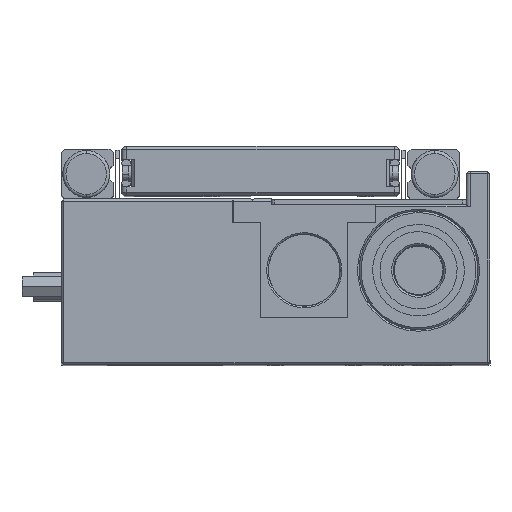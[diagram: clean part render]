
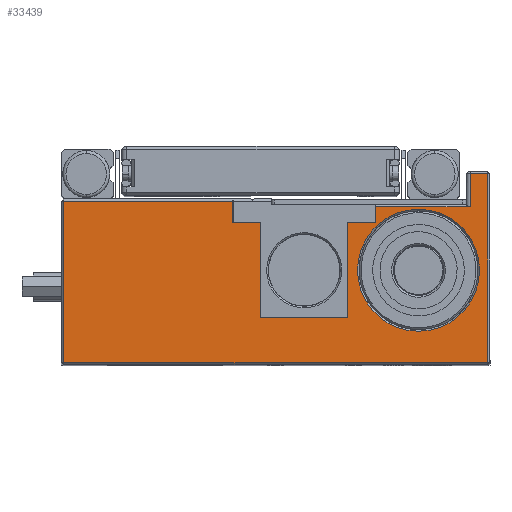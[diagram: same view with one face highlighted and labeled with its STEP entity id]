
A CAD part, top view. The second image highlights one B-rep face of the part: STEP entity #33439.
In plain terms, the highlighted planar face has unit normal (0, 0, 1).
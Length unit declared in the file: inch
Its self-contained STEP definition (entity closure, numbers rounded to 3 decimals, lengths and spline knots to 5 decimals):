
#486 = DIRECTION ( 'NONE',  ( 0., 0., -1. ) ) ;
#727 = CARTESIAN_POINT ( 'NONE',  ( 1.225, 1.22, 1.7 ) ) ;
#966 = DIRECTION ( 'NONE',  ( -1., 0., 0. ) ) ;
#998 = LINE ( 'NONE', #28695, #43756 ) ;
#1140 = VECTOR ( 'NONE', #7783, 39.37008 ) ;
#1205 = LINE ( 'NONE', #4611, #20156 ) ;
#2235 = VERTEX_POINT ( 'NONE', #37187 ) ;
#2687 = VERTEX_POINT ( 'NONE', #13105 ) ;
#2832 = CIRCLE ( 'NONE', #4267, 0.384 ) ;
#3442 = ORIENTED_EDGE ( 'NONE', *, *, #22979, .T. ) ;
#3818 = EDGE_CURVE ( 'NONE', #34899, #40530, #25342, .T. ) ;
#4213 = ORIENTED_EDGE ( 'NONE', *, *, #14075, .T. ) ;
#4267 = AXIS2_PLACEMENT_3D ( 'NONE', #17289, #486, #38602 ) ;
#4416 = VERTEX_POINT ( 'NONE', #5027 ) ;
#4603 = CARTESIAN_POINT ( 'NONE',  ( -0.095, 0.895, 1.7 ) ) ;
#4611 = CARTESIAN_POINT ( 'NONE',  ( -0.095, 0.296, 1.7 ) ) ;
#4625 = VECTOR ( 'NONE', #39157, 39.37008 ) ;
#4799 = ORIENTED_EDGE ( 'NONE', *, *, #11472, .T. ) ;
#4808 = CARTESIAN_POINT ( 'NONE',  ( -0.095, 0.296, 1.7 ) ) ;
#5027 = CARTESIAN_POINT ( 'NONE',  ( 0.455, 0.296, 1.7 ) ) ;
#5373 = PLANE ( 'NONE',  #29013 ) ;
#5589 = CARTESIAN_POINT ( 'NONE',  ( -0.095, 0.895, 1.7 ) ) ;
#5917 = ORIENTED_EDGE ( 'NONE', *, *, #32321, .T. ) ;
#6178 = EDGE_CURVE ( 'NONE', #16465, #10095, #43476, .T. ) ;
#7541 = DIRECTION ( 'NONE',  ( 0., -1., 0. ) ) ;
#7640 = DIRECTION ( 'NONE',  ( -1., 0., 0. ) ) ;
#7783 = DIRECTION ( 'NONE',  ( 0., -1., 0. ) ) ;
#9043 = LINE ( 'NONE', #36710, #14148 ) ;
#9541 = DIRECTION ( 'NONE',  ( 0., -1., 0. ) ) ;
#10095 = VERTEX_POINT ( 'NONE', #28542 ) ;
#10319 = LINE ( 'NONE', #36848, #13689 ) ;
#10705 = VECTOR ( 'NONE', #9541, 39.37008 ) ;
#11046 = CARTESIAN_POINT ( 'NONE',  ( 1.335, 1.045, 1.7 ) ) ;
#11299 = ORIENTED_EDGE ( 'NONE', *, *, #29945, .T. ) ;
#11472 = EDGE_CURVE ( 'NONE', #15242, #4416, #998, .T. ) ;
#12541 = LINE ( 'NONE', #19797, #43393 ) ;
#12550 = VERTEX_POINT ( 'NONE', #31872 ) ;
#13105 = CARTESIAN_POINT ( 'NONE',  ( 1.225, 1.205, 1.7 ) ) ;
#13388 = CARTESIAN_POINT ( 'NONE',  ( 0.63, 1.045, 1.7 ) ) ;
#13689 = VECTOR ( 'NONE', #30283, 39.37008 ) ;
#14075 = EDGE_CURVE ( 'NONE', #12550, #16532, #42269, .T. ) ;
#14082 = EDGE_CURVE ( 'NONE', #33377, #16465, #28881, .T. ) ;
#14128 = CARTESIAN_POINT ( 'NONE',  ( 1.284, 0.596, 1.7 ) ) ;
#14148 = VECTOR ( 'NONE', #19476, 39.37008 ) ;
#14850 = DIRECTION ( 'NONE',  ( 0., -1., 0. ) ) ;
#15242 = VERTEX_POINT ( 'NONE', #28992 ) ;
#15331 = CARTESIAN_POINT ( 'NONE',  ( -1.335, 0.015, 1.7 ) ) ;
#15800 = CARTESIAN_POINT ( 'NONE',  ( -0.27, 0.895, 1.7 ) ) ;
#16465 = VERTEX_POINT ( 'NONE', #18728 ) ;
#16532 = VERTEX_POINT ( 'NONE', #15331 ) ;
#16924 = DIRECTION ( 'NONE',  ( -1., 0., 0. ) ) ;
#17289 = CARTESIAN_POINT ( 'NONE',  ( 0.9, 0.596, 1.7 ) ) ;
#17361 = CARTESIAN_POINT ( 'NONE',  ( 0.63, 0.895, 1.7 ) ) ;
#18038 = ORIENTED_EDGE ( 'NONE', *, *, #26883, .T. ) ;
#18216 = CARTESIAN_POINT ( 'NONE',  ( 0.63, 0.895, 1.7 ) ) ;
#18310 = CARTESIAN_POINT ( 'NONE',  ( 0.455, 0.296, 1.7 ) ) ;
#18728 = CARTESIAN_POINT ( 'NONE',  ( -0.27, 0.895, 1.7 ) ) ;
#19150 = EDGE_CURVE ( 'NONE', #16532, #34899, #12541, .T. ) ;
#19300 = EDGE_CURVE ( 'NONE', #39107, #42481, #2832, .T. ) ;
#19476 = DIRECTION ( 'NONE',  ( -1., 0., 0. ) ) ;
#19797 = CARTESIAN_POINT ( 'NONE',  ( 1.35, 0.015, 1.7 ) ) ;
#19960 = CARTESIAN_POINT ( 'NONE',  ( 0.9, 0.596, 1.7 ) ) ;
#20156 = VECTOR ( 'NONE', #22091, 39.37008 ) ;
#20579 = VERTEX_POINT ( 'NONE', #4808 ) ;
#20735 = CARTESIAN_POINT ( 'NONE',  ( -1.35, 1.03, 1.7 ) ) ;
#21013 = DIRECTION ( 'NONE',  ( 0., 0., -1. ) ) ;
#21269 = EDGE_CURVE ( 'NONE', #40530, #2687, #9043, .T. ) ;
#21785 = VECTOR ( 'NONE', #7640, 39.37008 ) ;
#22062 = VERTEX_POINT ( 'NONE', #24060 ) ;
#22091 = DIRECTION ( 'NONE',  ( 0., 1., 0. ) ) ;
#22979 = EDGE_CURVE ( 'NONE', #22062, #32800, #40840, .T. ) ;
#23508 = DIRECTION ( 'NONE',  ( -1., 0., 0. ) ) ;
#23598 = VECTOR ( 'NONE', #966, 39.37008 ) ;
#24060 = CARTESIAN_POINT ( 'NONE',  ( 0.63, 0.995, 1.7 ) ) ;
#25342 = LINE ( 'NONE', #11046, #4625 ) ;
#26072 = ORIENTED_EDGE ( 'NONE', *, *, #14082, .T. ) ;
#26108 = VECTOR ( 'NONE', #23508, 39.37008 ) ;
#26604 = DIRECTION ( 'NONE',  ( 1., 0., 0. ) ) ;
#26850 = ORIENTED_EDGE ( 'NONE', *, *, #30780, .T. ) ;
#26883 = EDGE_CURVE ( 'NONE', #4416, #20579, #27845, .T. ) ;
#26954 = CARTESIAN_POINT ( 'NONE',  ( 1.335, 1.205, 1.7 ) ) ;
#27754 = DIRECTION ( 'NONE',  ( -1., 0., 0. ) ) ;
#27826 = ORIENTED_EDGE ( 'NONE', *, *, #19150, .T. ) ;
#27845 = LINE ( 'NONE', #18310, #21785 ) ;
#28542 = CARTESIAN_POINT ( 'NONE',  ( -0.27, 1.03, 1.7 ) ) ;
#28620 = VECTOR ( 'NONE', #27754, 39.37008 ) ;
#28695 = CARTESIAN_POINT ( 'NONE',  ( 0.455, 0.895, 1.7 ) ) ;
#28881 = LINE ( 'NONE', #4603, #23598 ) ;
#28992 = CARTESIAN_POINT ( 'NONE',  ( 0.455, 0.895, 1.7 ) ) ;
#29013 = AXIS2_PLACEMENT_3D ( 'NONE', #31431, #21013, #16924 ) ;
#29217 = CARTESIAN_POINT ( 'NONE',  ( 1.335, 0.015, 1.7 ) ) ;
#29312 = VECTOR ( 'NONE', #32833, 39.37008 ) ;
#29945 = EDGE_CURVE ( 'NONE', #20579, #33377, #1205, .T. ) ;
#30283 = DIRECTION ( 'NONE',  ( -1., 0., 0. ) ) ;
#30543 = LINE ( 'NONE', #17361, #26108 ) ;
#30639 = ORIENTED_EDGE ( 'NONE', *, *, #3818, .T. ) ;
#30780 = EDGE_CURVE ( 'NONE', #2235, #22062, #10319, .T. ) ;
#31216 = FACE_OUTER_BOUND ( 'NONE', #37300, .T. ) ;
#31431 = CARTESIAN_POINT ( 'NONE',  ( -1.35, 1.045, 1.7 ) ) ;
#31872 = CARTESIAN_POINT ( 'NONE',  ( -1.335, 1.03, 1.7 ) ) ;
#32321 = EDGE_CURVE ( 'NONE', #32800, #15242, #30543, .T. ) ;
#32800 = VERTEX_POINT ( 'NONE', #18216 ) ;
#32833 = DIRECTION ( 'NONE',  ( 0., 1., 0. ) ) ;
#33377 = VERTEX_POINT ( 'NONE', #5589 ) ;
#33439 = ADVANCED_FACE ( 'NONE', ( #34167, #31216 ), #5373, .F. ) ;
#33718 = ORIENTED_EDGE ( 'NONE', *, *, #19300, .T. ) ;
#33906 = ORIENTED_EDGE ( 'NONE', *, *, #6178, .T. ) ;
#34167 = FACE_BOUND ( 'NONE', #39781, .T. ) ;
#34554 = LINE ( 'NONE', #20735, #28620 ) ;
#34899 = VERTEX_POINT ( 'NONE', #29217 ) ;
#36710 = CARTESIAN_POINT ( 'NONE',  ( -1.35, 1.205, 1.7 ) ) ;
#36848 = CARTESIAN_POINT ( 'NONE',  ( -1.35, 0.995, 1.7 ) ) ;
#36941 = ORIENTED_EDGE ( 'NONE', *, *, #21269, .T. ) ;
#37187 = CARTESIAN_POINT ( 'NONE',  ( 1.225, 0.995, 1.7 ) ) ;
#37300 = EDGE_LOOP ( 'NONE', ( #44581, #26850, #3442, #5917, #4799, #18038, #11299, #26072, #33906, #39175, #4213, #27826, #30639, #36941 ) ) ;
#38240 = EDGE_CURVE ( 'NONE', #10095, #12550, #34554, .T. ) ;
#38306 = EDGE_CURVE ( 'NONE', #42481, #39107, #40852, .T. ) ;
#38602 = DIRECTION ( 'NONE',  ( -1., 0., 0. ) ) ;
#38620 = LINE ( 'NONE', #727, #42769 ) ;
#38865 = CARTESIAN_POINT ( 'NONE',  ( -1.335, 1.045, 1.7 ) ) ;
#39076 = DIRECTION ( 'NONE',  ( 0., 0., -1. ) ) ;
#39107 = VERTEX_POINT ( 'NONE', #39357 ) ;
#39157 = DIRECTION ( 'NONE',  ( 0., 1., 0. ) ) ;
#39175 = ORIENTED_EDGE ( 'NONE', *, *, #38240, .T. ) ;
#39357 = CARTESIAN_POINT ( 'NONE',  ( 0.516, 0.596, 1.7 ) ) ;
#39781 = EDGE_LOOP ( 'NONE', ( #44630, #33718 ) ) ;
#40530 = VERTEX_POINT ( 'NONE', #26954 ) ;
#40840 = LINE ( 'NONE', #13388, #10705 ) ;
#40852 = CIRCLE ( 'NONE', #41571, 0.384 ) ;
#41571 = AXIS2_PLACEMENT_3D ( 'NONE', #19960, #39076, #42935 ) ;
#42269 = LINE ( 'NONE', #38865, #1140 ) ;
#42481 = VERTEX_POINT ( 'NONE', #14128 ) ;
#42557 = EDGE_CURVE ( 'NONE', #2687, #2235, #38620, .T. ) ;
#42769 = VECTOR ( 'NONE', #7541, 39.37008 ) ;
#42935 = DIRECTION ( 'NONE',  ( -1., 0., 0. ) ) ;
#43393 = VECTOR ( 'NONE', #26604, 39.37008 ) ;
#43476 = LINE ( 'NONE', #15800, #29312 ) ;
#43756 = VECTOR ( 'NONE', #14850, 39.37008 ) ;
#44581 = ORIENTED_EDGE ( 'NONE', *, *, #42557, .T. ) ;
#44630 = ORIENTED_EDGE ( 'NONE', *, *, #38306, .T. ) ;
